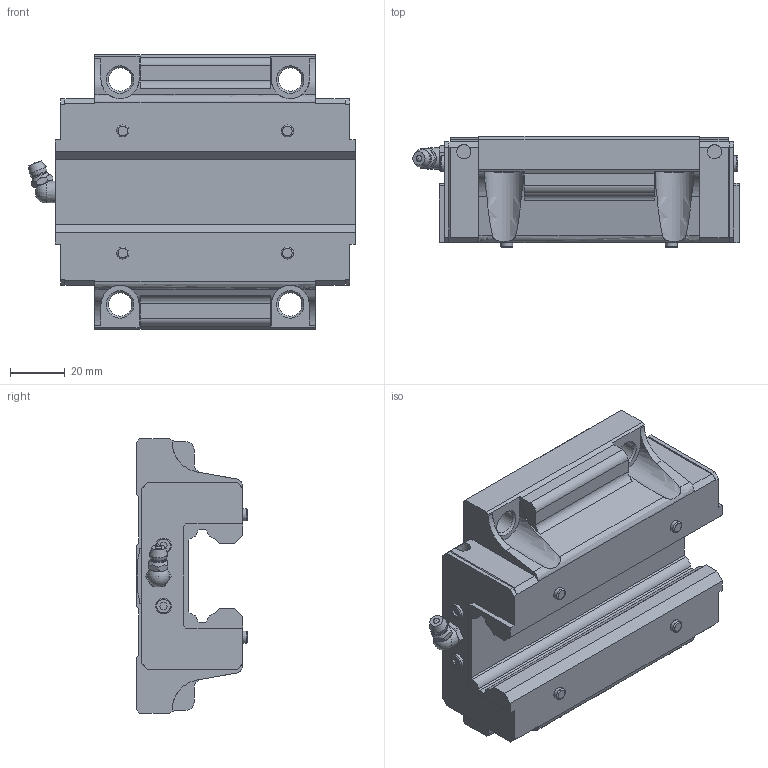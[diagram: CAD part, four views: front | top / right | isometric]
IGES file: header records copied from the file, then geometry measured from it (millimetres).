
Start section: Data from Parasolid IGES Translator 26.0.171, Copyright(c) 2006 Siemens PLM Software. All Rights Reserved.
Global section: file name: HSR35C1SS(GK) BLOCK(1B-M6F).igs; native system: By Siemens PLM Incorporated; preprocessor: XPlus GENERIC/IGES 26.0.171; author: Noname; organization: Noname; date: 20240521.045514; units: millimetre
Bounding box: 119 x 40.5 x 100 mm (x, y, z)
Surface area: 40641.4 mm2 (no closed solid volume)
Topology: 0 solids, 0 shells, 273 faces, 1480 edges, 1431 vertices
Faces by surface type: extrusion 188, revolution 85
